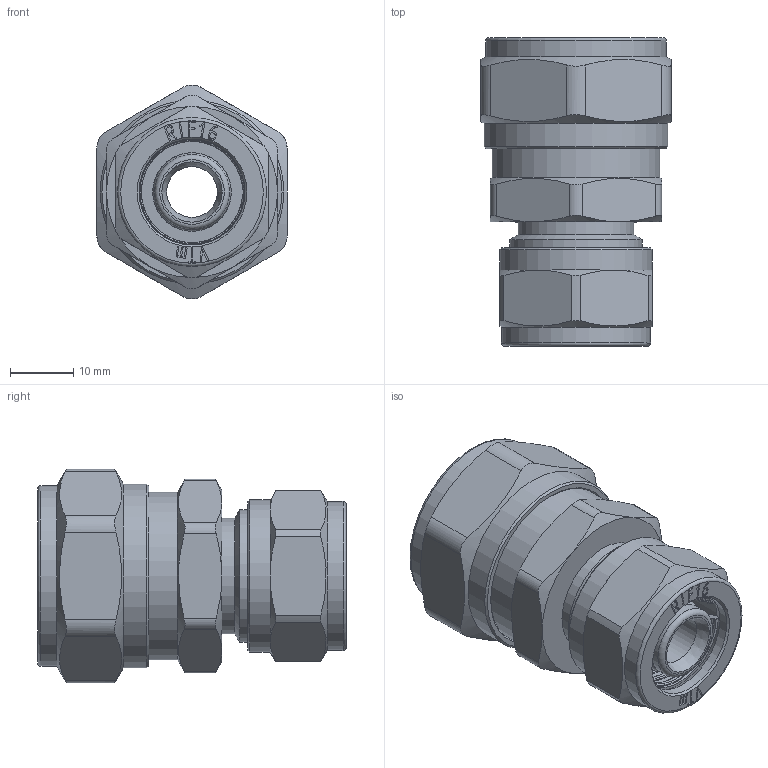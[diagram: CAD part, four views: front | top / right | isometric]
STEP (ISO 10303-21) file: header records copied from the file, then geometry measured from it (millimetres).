
FILE_DESCRIPTION(('STEP AP203'), '1');
FILE_NAME('VTm.303.N.002016', '', ('UNSPECIFIED'), ('UNSPECIFIED'), 'C3D Converter', 'C3D Toolkit', '');
FILE_SCHEMA(('CONFIG_CONTROL_DESIGN'));
Length unit declared in the file: millimetre
Products named in the file (1): ВР.302634.069.000 СБ
Bounding box: 30 x 48.64 x 33.7 mm (x, y, z)
Volume: 19341.2 mm3; surface area: 13979.9 mm2
Topology: 2 solids, 2 shells, 573 faces, 1543 edges, 1015 vertices
Faces by surface type: extrusion 228, plane 191, cylinder 64, torus 54, cone 36
Full cylindrical faces by diameter (mm): 8 x1, 11.5 x1, 11.8 x4, 12.4 x1, 15.8 x4, 15.9 x1, 16.2 x1, 16.7 x1, 18.2 x1, 18.632 x1, 20.1 x1, 20.2 x1, 20.7 x1, 20.955 x1, 23.5 x1, 24 x1, 24.118 x1, 26.441 x1, 28.5 x1, 29 x1
Entity records: 21204 total; most frequent: CARTESIAN_POINT 8191, ORIENTED_EDGE 2946, DIRECTION 1943, EDGE_CURVE 1473, VERTEX_POINT 1015, VECTOR 855, B_SPLINE_CURVE_WITH_KNOTS 836, EDGE_LOOP 688
